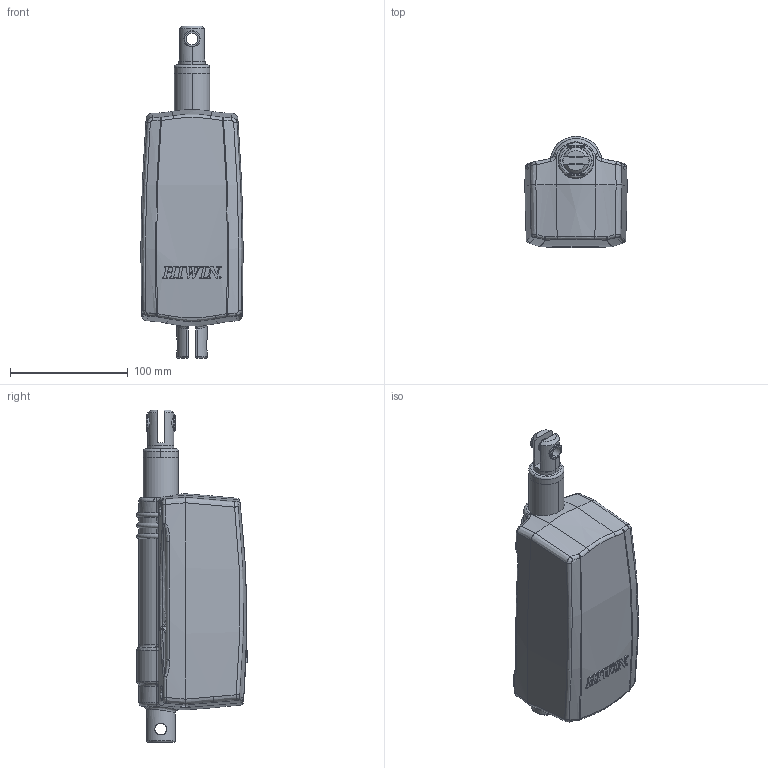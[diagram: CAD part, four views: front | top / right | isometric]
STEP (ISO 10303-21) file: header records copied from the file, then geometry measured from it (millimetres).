
FILE_DESCRIPTION((''),'2;1');
FILE_NAME('LAN4-S100_ASM','2007-07-12T',('amyliao'),(''),'PRO/ENGINEER BY PARAMETRIC TECHNOLOGY CORPORATION, 2003210','PRO/ENGINEER BY PARAMETRIC TECHNOLOGY CORPORATION, 2003210','');
FILE_SCHEMA(('CONFIG_CONTROL_DESIGN'));
Length unit declared in the file: millimetre
Products named in the file (9): COVER02; 04; 03; 01; 02; 05; N4-OUT-TUBE_ASM; COVER01; LAN4-S100_ASM
Assembly tree (9 placements, depth 3):
  LAN4-S100_ASM
    COVER02
    N4-OUT-TUBE_ASM
      04
      03
      01
      02
      05  x2
    COVER01
Bounding box: 86.98 x 94.2 x 282 mm (x, y, z)
Volume: 370610.8 mm3; surface area: 201620.8 mm2
Topology: 8 solids, 8 shells, 623 faces, 1609 edges, 1024 vertices
Faces by surface type: plane 213, cylinder 128, bspline 112, extrusion 92, cone 43, torus 19, sphere 16
Entity records: 25087 total; most frequent: CARTESIAN_POINT 11594, ORIENTED_EDGE 3174, DIRECTION 2073, EDGE_CURVE 1587, VERTEX_POINT 1010, B_SPLINE_CURVE_WITH_KNOTS 872, AXIS2_PLACEMENT_3D 742, EDGE_LOOP 661
